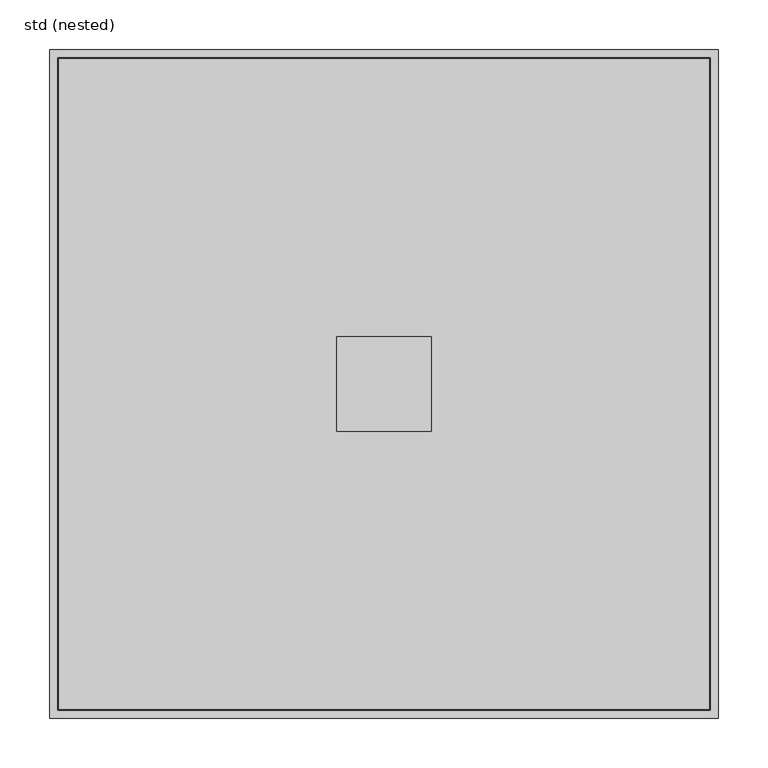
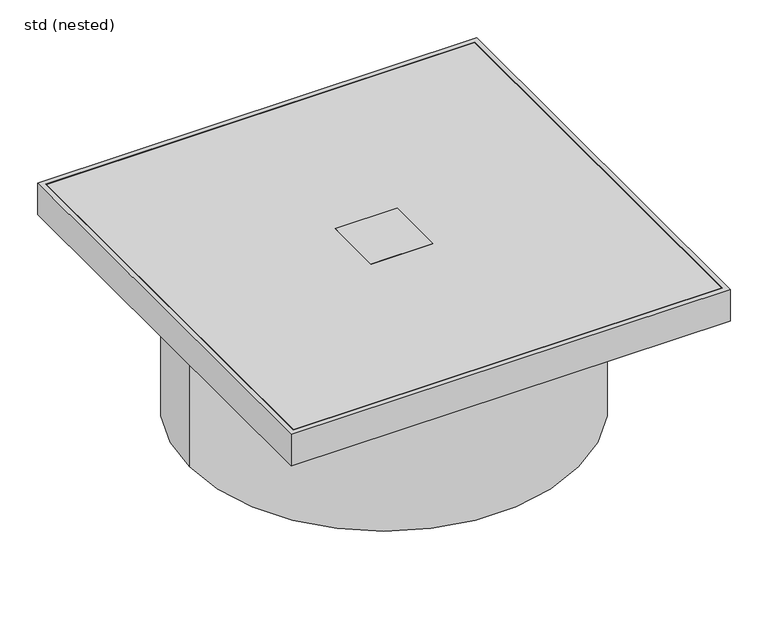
"""IFC4 building model written with IfcOpenShell, lengths in millimetres: unitary equipment geometry, ZZZ_do not use_ME_WPB_top section muliflex_ACO -SH : std (nested)."""

from ifc_helpers import new_model, si_unit, frame, origin, place, context, project, spatial, polyline, circle_curve, outline, extrude, source, transform, mapped, element, save
from ifc_brep_helpers import plane_surface, cylinder_surface, revolved_surface, advanced_brep


def std_nested_00d3e785(model_context):
    return source(origin(), model_context, "Body", "SolidModel", [
        extrude(outline(polyline([(47.5, -47.5), (-47.5, -47.5), (-47.5, 47.5), (47.5, 47.5), (47.5, -47.5)])), frame((0.0, 0.0, -43.0), z_axis=(0.0, 0.0, 1.0), x_axis=(1.0, 0.0, 0.0)), (0.0, 0.0, 1.0), 43.0),
        extrude(outline(polyline([(327.5, -327.5), (-327.5, -327.5), (-327.5, 327.5), (327.5, 327.5), (327.5, -327.5)]), holes=[polyline([(-47.5, -47.5), (47.5, -47.5), (47.5, 47.5), (-47.5, 47.5), (-47.5, -47.5)])]), frame((0.0, 0.0, -43.0), z_axis=(0.0, 0.0, 1.0), x_axis=(1.0, 0.0, 0.0)), (0.0, 0.0, 1.0), 43.0),
        advanced_brep(
        [(336.5, 336.5, 0.0), (336.5, -336.5, 0.0), (336.5, -336.5, -51.0), (336.5, 336.5, -51.0), (-336.5, 336.5, 0.0), (-336.5, 336.5, -51.0), (-336.5, -336.5, 0.0), (-336.5, -336.5, -51.0), (-328.5, 328.5, 0.0), (-328.5, -328.5, 0.0), (-328.5, -328.5, -43.0), (-328.5, 328.5, -43.0), (328.5, 328.5, 0.0), (328.5, 328.5, -43.0), (328.5, -328.5, 0.0), (328.5, -328.5, -43.0), (298.0, 0.0, -270.0), (-298.0, 0.0, -270.0), (290.0, 0.0, -270.0), (-290.0, 0.0, -270.0), (298.0, 0.0, -51.0), (-298.0, 0.0, -51.0), (290.0, 0.0, -51.0), (-290.0, 0.0, -51.0), (290.0, 0.0, -43.0), (-290.0, 0.0, -43.0)],
        [
            (0, 1),
            (1, 2),
            (2, 3),
            (3, 0),
            (4, 0),
            (3, 5),
            (5, 4),
            (6, 4),
            (5, 7),
            (7, 6),
            (1, 6),
            (7, 2),
            (8, 9),
            (9, 10),
            (10, 11),
            (11, 8),
            (12, 8),
            (11, 13),
            (13, 12),
            (14, 12),
            (13, 15),
            (15, 14),
            (9, 14),
            (15, 10),
            (16, 17, circle_curve(frame((0.0, 0.0, -270.0), z_axis=(0.0, 0.0, -1.0), x_axis=(-1.0, 0.0, 0.0)), 298.0)),
            (17, 16, circle_curve(frame((0.0, 0.0, -270.0), z_axis=(0.0, 0.0, -1.0), x_axis=(-1.0, 0.0, 0.0)), 298.0)),
            (18, 19, circle_curve(frame((0.0, 0.0, -270.0), z_axis=(0.0, 0.0, 1.0), x_axis=(-1.0, 0.0, 0.0)), 290.0)),
            (19, 18, circle_curve(frame((0.0, 0.0, -270.0), z_axis=(0.0, 0.0, 1.0), x_axis=(-1.0, 0.0, 0.0)), 290.0)),
            (16, 20),
            (20, 21, circle_curve(frame((0.0, 0.0, -51.0), z_axis=(0.0, 0.0, -1.0), x_axis=(-1.0, 0.0, 0.0)), 298.0)),
            (21, 17),
            (21, 20, circle_curve(frame((0.0, 0.0, -51.0), z_axis=(0.0, 0.0, -1.0), x_axis=(-1.0, 0.0, 0.0)), 298.0)),
            (18, 22),
            (22, 23, circle_curve(frame((0.0, 0.0, -51.0), z_axis=(0.0, 0.0, 1.0), x_axis=(-1.0, 0.0, 0.0)), 290.0)),
            (23, 19),
            (23, 22, circle_curve(frame((0.0, 0.0, -51.0), z_axis=(0.0, 0.0, 1.0), x_axis=(-1.0, 0.0, 0.0)), 290.0)),
            (24, 25, circle_curve(frame((0.0, 0.0, -43.0), z_axis=(0.0, 0.0, -1.0), x_axis=(-1.0, 0.0, 0.0)), 290.0)),
            (25, 24, circle_curve(frame((0.0, 0.0, -43.0), z_axis=(0.0, 0.0, -1.0), x_axis=(-1.0, 0.0, 0.0)), 290.0)),
            (25, 23),
            (22, 24),
        ],
        [
            plane_surface(frame((336.5, -336.5, -1.0), z_axis=(1.0, 0.0, 0.0), x_axis=(0.0, 0.0, -1.0))),
            plane_surface(frame((336.5, 336.5, -1.0), z_axis=(0.0, 1.0, 0.0), x_axis=(0.0, 0.0, -1.0))),
            plane_surface(frame((-336.5, 336.5, -1.0), z_axis=(-1.0, 0.0, 0.0), x_axis=(0.0, 0.0, -1.0))),
            plane_surface(frame((-336.5, -336.5, -1.0), z_axis=(0.0, -1.0, 0.0), x_axis=(0.0, 0.0, -1.0))),
            plane_surface(frame((-328.5, -328.5, -1.0), z_axis=(1.0, 0.0, 0.0), x_axis=(0.0, 0.0, -1.0))),
            plane_surface(frame((-328.5, 328.5, -1.0), z_axis=(0.0, -1.0, 0.0), x_axis=(0.0, 0.0, -1.0))),
            plane_surface(frame((328.5, 328.5, -1.0), z_axis=(-1.0, 0.0, 0.0), x_axis=(0.0, 0.0, -1.0))),
            plane_surface(frame((328.5, -328.5, -1.0), z_axis=(0.0, 1.0, 0.0), x_axis=(0.0, 0.0, -1.0))),
            plane_surface(frame((0.0, 0.0, 0.0), z_axis=(0.0, 0.0, 1.0), x_axis=(0.0, -1.0, 0.0))),
            plane_surface(frame((0.0, 0.0, -270.0), z_axis=(0.0, 0.0, -1.0), x_axis=(0.0, -1.0, 0.0))),
            cylinder_surface(frame((0.0, 0.0, -270.0), z_axis=(0.0, 0.0, -1.0), x_axis=(-1.0, 0.0, 0.0)), 298.0),
            revolved_surface(polyline([(-290.0, 0.0, -51.0), (-290.0, 0.0, -270.0)]), (0.0, 0.0, -270.0), (0.0, 0.0, 1.0)),
            plane_surface(frame((0.0, 0.0, -51.0), z_axis=(0.0, 0.0, -1.0), x_axis=(0.0, -1.0, 0.0))),
            plane_surface(frame((0.0, 0.0, -43.0), z_axis=(0.0, 0.0, 1.0), x_axis=(0.0, -1.0, 0.0))),
            revolved_surface(polyline([(-290.0, 0.0, -43.0), (-290.0, 0.0, -51.0)]), (0.0, 0.0, -51.0), (0.0, 0.0, 1.0)),
        ],
        [
            (0, [[1, 2, 3, 4]]),
            (1, [[5, -4, 6, 7]]),
            (2, [[8, -7, 9, 10]]),
            (3, [[-2, 11, -10, 12]]),
            (4, [[13, 14, 15, 16]]),
            (5, [[17, -16, 18, 19]]),
            (6, [[20, -19, 21, 22]]),
            (7, [[-14, 23, -22, 24]]),
            (8, [[-1, -5, -8, -11], [-13, -17, -20, -23]]),
            (9, [[25, 26], [27, 28]]),
            (10, [[-25, 29, 30, 31]]),
            (10, [[-26, -31, 32, -29]]),
            (11, [[-27, 33, 34, 35]]),
            (11, [[-28, -35, 36, -33]]),
            (12, [[-12, -9, -6, -3], [-30, -32]]),
            (13, [[-15, -24, -21, -18], [37, 38]]),
            (14, [[-38, 39, -34, 40]]),
            (14, [[-37, -40, -36, -39]]),
        ],
    ),
    ])


if __name__ == "__main__":
    model = new_model("IFC4")
    model_context = context("Model", 3, world=origin())
    ifc_project = project(units=[si_unit("LENGTHUNIT", "METRE", prefix="MILLI")], contexts=[model_context])
    site = spatial("IfcSite", under=ifc_project)
    building = spatial("IfcBuilding", under=site)
    placement = place(None, origin())
    std_nested_shape = std_nested_00d3e785(model_context)
    element("IfcUnitaryEquipment", 1, ObjectType="ZZZ_do not use_ME_WPB_top section muliflex_ACO -SH : std (nested)", at=placement, inside=building, context=model_context, shape_type="MappedRepresentation", body=[
        mapped(std_nested_shape, transform((0.0, 0.0, 0.0), x_axis=(1.0, 0.0, 0.0), y_axis=(0.0, 1.0, 0.0), z_axis=(0.0, 0.0, 1.0))),
    ])
    save(model, "model.ifc")
